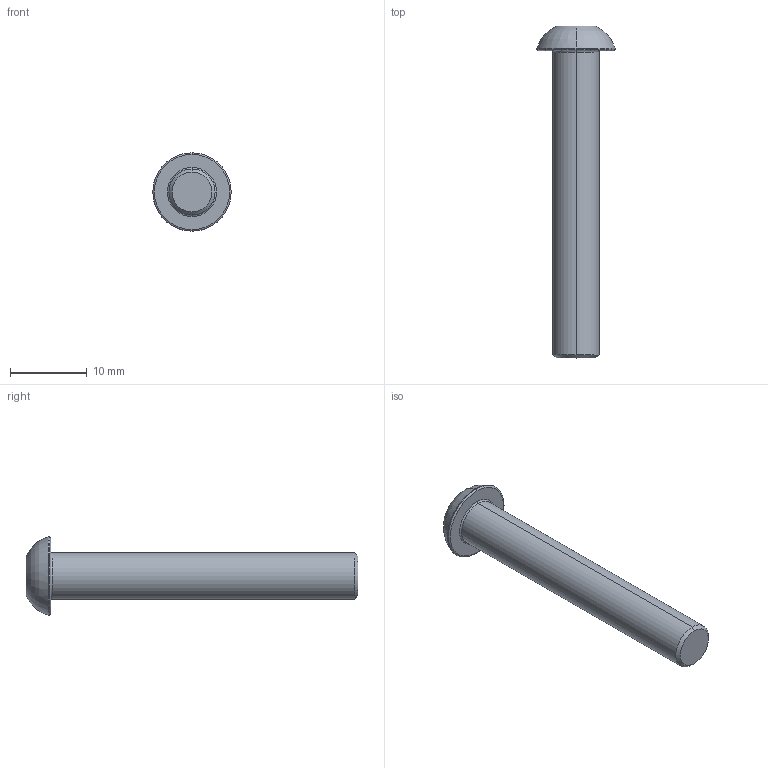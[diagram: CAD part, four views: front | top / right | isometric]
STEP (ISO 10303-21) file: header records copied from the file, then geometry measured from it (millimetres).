
FILE_DESCRIPTION (( 'STEP AP203' ), '1' );
FILE_NAME ('LGDD-TD-M6x40.STEP', '2026-08-14T01:26:35', ( '' ), ( '' ), 'SwSTEP 2.0', 'SolidWorks 2020', '' );
FILE_SCHEMA (( 'CONFIG_CONTROL_DESIGN' ));
Length unit declared in the file: millimetre
Products named in the file (1): LGDD-TD-M6x40
Bounding box: 10.2 x 43.2 x 10.2 mm (x, y, z)
Volume: 1280.4 mm3; surface area: 995.7 mm2
Topology: 1 solids, 1 shells, 31 faces, 59 edges, 32 vertices
Faces by surface type: plane 10, cone 9, torus 8, cylinder 4
Entity records: 860 total; most frequent: CARTESIAN_POINT 150, DIRECTION 149, ORIENTED_EDGE 118, AXIS2_PLACEMENT_3D 65, EDGE_CURVE 59, CIRCLE 33, EDGE_LOOP 33, VERTEX_POINT 32
